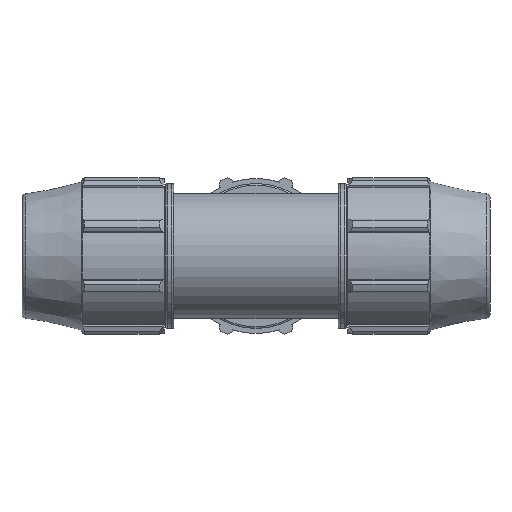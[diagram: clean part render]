
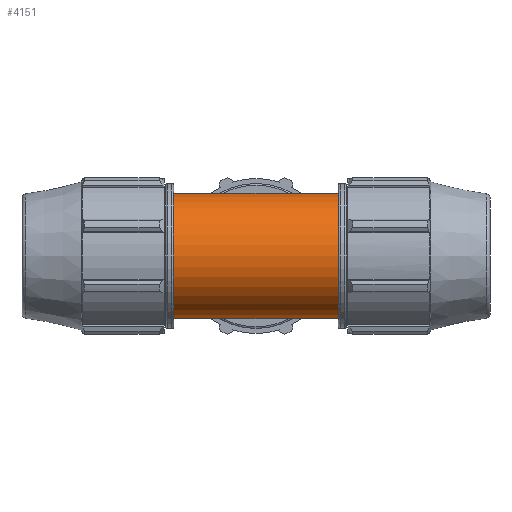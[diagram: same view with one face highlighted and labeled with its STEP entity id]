
A CAD part, front view. The second image highlights one B-rep face of the part: STEP entity #4151.
In plain terms, the highlighted cylindrical face has radius 20.288 mm (diameter 40.576 mm), a full revolution.
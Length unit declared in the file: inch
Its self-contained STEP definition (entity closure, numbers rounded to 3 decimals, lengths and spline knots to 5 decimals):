
#131=ELLIPSE('',#4396,1.1296,0.79875);
#132=ELLIPSE('',#4397,1.1296,0.79875);
#133=ELLIPSE('',#4399,1.1296,0.79875);
#134=ELLIPSE('',#4400,1.1296,0.79875);
#139=LINE('',#6057,#454);
#140=LINE('',#6063,#455);
#454=VECTOR('',#4858,0.79875);
#455=VECTOR('',#4863,0.79875);
#769=CYLINDRICAL_SURFACE('',#4393,0.79875);
#850=FACE_OUTER_BOUND('',#1064,.T.);
#1064=EDGE_LOOP('',(#2583,#2584,#2585,#2586,#2587,#2588,#2589,#2590,#2591,
#2592,#2593));
#1299=CIRCLE('',#4394,0.79875);
#1300=CIRCLE('',#4395,0.79875);
#1301=CIRCLE('',#4398,0.79875);
#1523=VERTEX_POINT('',#6052);
#1524=VERTEX_POINT('',#6053);
#1525=VERTEX_POINT('',#6056);
#1526=VERTEX_POINT('',#6058);
#1527=VERTEX_POINT('',#6060);
#1528=VERTEX_POINT('',#6062);
#1529=VERTEX_POINT('',#6065);
#1954=EDGE_CURVE('',#1523,#1524,#1299,.T.);
#1955=EDGE_CURVE('',#1524,#1523,#1300,.T.);
#1956=EDGE_CURVE('',#1524,#1525,#139,.T.);
#1957=EDGE_CURVE('',#1525,#1526,#131,.T.);
#1958=EDGE_CURVE('',#1526,#1527,#132,.T.);
#1959=EDGE_CURVE('',#1527,#1528,#140,.T.);
#1960=EDGE_CURVE('',#1528,#1528,#1301,.T.);
#1961=EDGE_CURVE('',#1527,#1529,#133,.T.);
#1962=EDGE_CURVE('',#1529,#1525,#134,.T.);
#2583=ORIENTED_EDGE('',*,*,#1954,.F.);
#2584=ORIENTED_EDGE('',*,*,#1955,.F.);
#2585=ORIENTED_EDGE('',*,*,#1956,.T.);
#2586=ORIENTED_EDGE('',*,*,#1957,.T.);
#2587=ORIENTED_EDGE('',*,*,#1958,.T.);
#2588=ORIENTED_EDGE('',*,*,#1959,.T.);
#2589=ORIENTED_EDGE('',*,*,#1960,.F.);
#2590=ORIENTED_EDGE('',*,*,#1959,.F.);
#2591=ORIENTED_EDGE('',*,*,#1961,.T.);
#2592=ORIENTED_EDGE('',*,*,#1962,.T.);
#2593=ORIENTED_EDGE('',*,*,#1956,.F.);
#4151=ADVANCED_FACE('',(#850),#769,.T.);
#4393=AXIS2_PLACEMENT_3D('',#6051,#4852,#4853);
#4394=AXIS2_PLACEMENT_3D('',#6054,#4854,#4855);
#4395=AXIS2_PLACEMENT_3D('',#6055,#4856,#4857);
#4396=AXIS2_PLACEMENT_3D('',#6059,#4859,#4860);
#4397=AXIS2_PLACEMENT_3D('',#6061,#4861,#4862);
#4398=AXIS2_PLACEMENT_3D('',#6064,#4864,#4865);
#4399=AXIS2_PLACEMENT_3D('',#6066,#4866,#4867);
#4400=AXIS2_PLACEMENT_3D('',#6067,#4868,#4869);
#4852=DIRECTION('center_axis',(-1.,0.,0.));
#4853=DIRECTION('ref_axis',(0.,-1.,0.));
#4854=DIRECTION('center_axis',(-1.,0.,0.));
#4855=DIRECTION('ref_axis',(0.,0.,-1.));
#4856=DIRECTION('center_axis',(-1.,0.,0.));
#4857=DIRECTION('ref_axis',(0.,0.,-1.));
#4858=DIRECTION('',(1.,0.,0.));
#4859=DIRECTION('center_axis',(-0.707,-0.707,0.));
#4860=DIRECTION('ref_axis',(-0.707,0.707,0.));
#4861=DIRECTION('center_axis',(0.707,-0.707,0.));
#4862=DIRECTION('ref_axis',(-0.707,-0.707,0.));
#4863=DIRECTION('',(1.,0.,0.));
#4864=DIRECTION('center_axis',(1.,0.,0.));
#4865=DIRECTION('ref_axis',(0.,0.,-1.));
#4866=DIRECTION('center_axis',(0.707,-0.707,0.));
#4867=DIRECTION('ref_axis',(-0.707,-0.707,0.));
#4868=DIRECTION('center_axis',(-0.707,-0.707,0.));
#4869=DIRECTION('ref_axis',(-0.707,0.707,0.));
#6051=CARTESIAN_POINT('Origin',(-0.9015,0.,0.));
#6052=CARTESIAN_POINT('',(-1.053,-0.79875,0.));
#6053=CARTESIAN_POINT('',(-1.053,0.79875,0.));
#6054=CARTESIAN_POINT('Origin',(-1.053,0.,0.));
#6055=CARTESIAN_POINT('Origin',(-1.053,0.,0.));
#6056=CARTESIAN_POINT('',(-0.79875,0.79875,0.));
#6057=CARTESIAN_POINT('',(-0.9015,0.79875,0.));
#6058=CARTESIAN_POINT('',(0.,0.,-0.79875));
#6059=CARTESIAN_POINT('Origin',(0.,0.,0.));
#6060=CARTESIAN_POINT('',(0.79875,0.79875,0.));
#6061=CARTESIAN_POINT('Origin',(0.,0.,0.));
#6062=CARTESIAN_POINT('',(1.053,0.79875,0.));
#6063=CARTESIAN_POINT('',(-0.9015,0.79875,0.));
#6064=CARTESIAN_POINT('Origin',(1.053,0.,0.));
#6065=CARTESIAN_POINT('',(0.,0.,0.79875));
#6066=CARTESIAN_POINT('Origin',(0.,0.,0.));
#6067=CARTESIAN_POINT('Origin',(0.,0.,0.));
